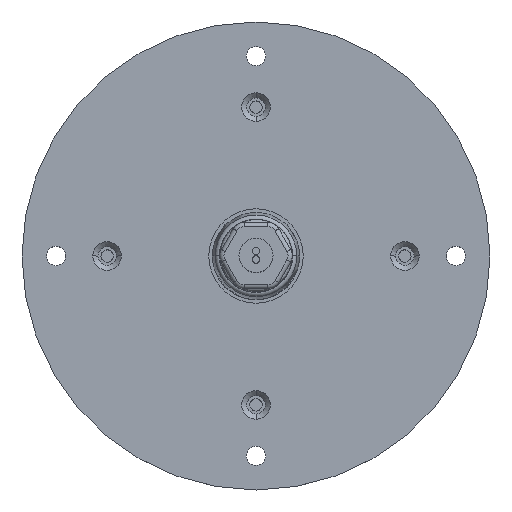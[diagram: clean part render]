
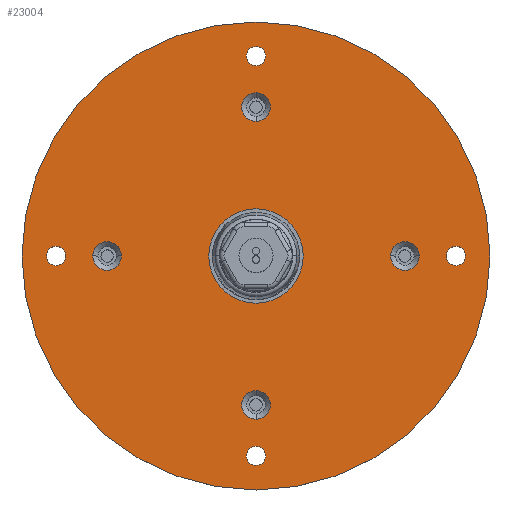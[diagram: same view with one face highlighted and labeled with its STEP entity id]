
A CAD part, top view. The second image highlights one B-rep face of the part: STEP entity #23004.
In plain terms, the highlighted planar face has unit normal (0, 0, 1).
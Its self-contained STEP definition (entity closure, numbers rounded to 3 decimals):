
#22507=CARTESIAN_POINT('',(0.,0.,1.5));
#22508=DIRECTION('',(0.,0.,1.));
#22509=DIRECTION('',(-1.,0.,0.));
#22510=AXIS2_PLACEMENT_3D('',#22507,#22508,#22509);
#22512=CARTESIAN_POINT('',(0.,0.,1.5));
#22513=DIRECTION('',(0.,0.,1.));
#22514=DIRECTION('',(1.,0.,0.));
#22515=AXIS2_PLACEMENT_3D('',#22512,#22513,#22514);
#22517=CARTESIAN_POINT('',(0.,0.,1.5));
#22518=DIRECTION('',(0.,0.,-1.));
#22519=DIRECTION('',(1.,0.,0.));
#22520=AXIS2_PLACEMENT_3D('',#22517,#22518,#22519);
#22522=CARTESIAN_POINT('',(0.,0.,1.5));
#22523=DIRECTION('',(0.,0.,-1.));
#22524=DIRECTION('',(-1.,0.,0.));
#22525=AXIS2_PLACEMENT_3D('',#22522,#22523,#22524);
#22527=CARTESIAN_POINT('',(35.,0.,1.5));
#22528=DIRECTION('',(0.,0.,-1.));
#22529=DIRECTION('',(1.,0.,0.));
#22530=AXIS2_PLACEMENT_3D('',#22527,#22528,#22529);
#22532=CARTESIAN_POINT('',(35.,0.,1.5));
#22533=DIRECTION('',(0.,0.,-1.));
#22534=DIRECTION('',(-1.,0.,0.));
#22535=AXIS2_PLACEMENT_3D('',#22532,#22533,#22534);
#22537=CARTESIAN_POINT('',(0.,35.,1.5));
#22538=DIRECTION('',(0.,0.,-1.));
#22539=DIRECTION('',(0.,1.,0.));
#22540=AXIS2_PLACEMENT_3D('',#22537,#22538,#22539);
#22542=CARTESIAN_POINT('',(0.,35.,1.5));
#22543=DIRECTION('',(0.,0.,-1.));
#22544=DIRECTION('',(0.,-1.,0.));
#22545=AXIS2_PLACEMENT_3D('',#22542,#22543,#22544);
#22547=CARTESIAN_POINT('',(-35.,0.,1.5));
#22548=DIRECTION('',(0.,0.,-1.));
#22549=DIRECTION('',(1.,0.,0.));
#22550=AXIS2_PLACEMENT_3D('',#22547,#22548,#22549);
#22552=CARTESIAN_POINT('',(-35.,0.,1.5));
#22553=DIRECTION('',(0.,0.,-1.));
#22554=DIRECTION('',(-1.,0.,0.));
#22555=AXIS2_PLACEMENT_3D('',#22552,#22553,#22554);
#22557=CARTESIAN_POINT('',(0.,-35.,1.5));
#22558=DIRECTION('',(0.,0.,-1.));
#22559=DIRECTION('',(0.,-1.,0.));
#22560=AXIS2_PLACEMENT_3D('',#22557,#22558,#22559);
#22562=CARTESIAN_POINT('',(0.,-35.,1.5));
#22563=DIRECTION('',(0.,0.,-1.));
#22564=DIRECTION('',(0.,1.,0.));
#22565=AXIS2_PLACEMENT_3D('',#22562,#22563,#22564);
#22567=CARTESIAN_POINT('',(0.,47.,1.5));
#22568=DIRECTION('',(0.,0.,1.));
#22569=DIRECTION('',(1.,0.,0.));
#22570=AXIS2_PLACEMENT_3D('',#22567,#22568,#22569);
#22572=CARTESIAN_POINT('',(0.,47.,1.5));
#22573=DIRECTION('',(0.,0.,1.));
#22574=DIRECTION('',(-1.,0.,0.));
#22575=AXIS2_PLACEMENT_3D('',#22572,#22573,#22574);
#22577=CARTESIAN_POINT('',(-47.,0.,1.5));
#22578=DIRECTION('',(0.,0.,1.));
#22579=DIRECTION('',(0.,1.,0.));
#22580=AXIS2_PLACEMENT_3D('',#22577,#22578,#22579);
#22582=CARTESIAN_POINT('',(-47.,0.,1.5));
#22583=DIRECTION('',(0.,0.,1.));
#22584=DIRECTION('',(0.,-1.,0.));
#22585=AXIS2_PLACEMENT_3D('',#22582,#22583,#22584);
#22587=CARTESIAN_POINT('',(0.,-47.,1.5));
#22588=DIRECTION('',(0.,0.,1.));
#22589=DIRECTION('',(-1.,0.,0.));
#22590=AXIS2_PLACEMENT_3D('',#22587,#22588,#22589);
#22592=CARTESIAN_POINT('',(0.,-47.,1.5));
#22593=DIRECTION('',(0.,0.,1.));
#22594=DIRECTION('',(1.,0.,0.));
#22595=AXIS2_PLACEMENT_3D('',#22592,#22593,#22594);
#22597=CARTESIAN_POINT('',(47.,0.,1.5));
#22598=DIRECTION('',(0.,0.,1.));
#22599=DIRECTION('',(0.,-1.,0.));
#22600=AXIS2_PLACEMENT_3D('',#22597,#22598,#22599);
#22602=CARTESIAN_POINT('',(47.,0.,1.5));
#22603=DIRECTION('',(0.,0.,1.));
#22604=DIRECTION('',(0.,1.,0.));
#22605=AXIS2_PLACEMENT_3D('',#22602,#22603,#22604);
#22755=CARTESIAN_POINT('',(-11.1,0.,1.5));
#22756=CARTESIAN_POINT('',(11.1,0.,1.5));
#22757=VERTEX_POINT('',#22755);
#22758=VERTEX_POINT('',#22756);
#22775=CARTESIAN_POINT('',(38.35,0.,1.5));
#22776=CARTESIAN_POINT('',(31.65,0.,1.5));
#22777=VERTEX_POINT('',#22775);
#22778=VERTEX_POINT('',#22776);
#22783=CARTESIAN_POINT('',(0.,38.35,1.5));
#22784=CARTESIAN_POINT('',(0.,31.65,1.5));
#22785=VERTEX_POINT('',#22783);
#22786=VERTEX_POINT('',#22784);
#22791=CARTESIAN_POINT('',(-31.65,0.,1.5));
#22792=CARTESIAN_POINT('',(-38.35,0.,1.5));
#22793=VERTEX_POINT('',#22791);
#22794=VERTEX_POINT('',#22792);
#22799=CARTESIAN_POINT('',(0.,-38.35,1.5));
#22800=CARTESIAN_POINT('',(0.,-31.65,1.5));
#22801=VERTEX_POINT('',#22799);
#22802=VERTEX_POINT('',#22800);
#22807=CARTESIAN_POINT('',(2.25,47.,1.5));
#22808=CARTESIAN_POINT('',(-2.25,47.,1.5));
#22809=VERTEX_POINT('',#22807);
#22810=VERTEX_POINT('',#22808);
#22815=CARTESIAN_POINT('',(-47.,2.25,1.5));
#22816=CARTESIAN_POINT('',(-47.,-2.25,1.5));
#22817=VERTEX_POINT('',#22815);
#22818=VERTEX_POINT('',#22816);
#22823=CARTESIAN_POINT('',(-2.25,-47.,1.5));
#22824=CARTESIAN_POINT('',(2.25,-47.,1.5));
#22825=VERTEX_POINT('',#22823);
#22826=VERTEX_POINT('',#22824);
#22831=CARTESIAN_POINT('',(47.,-2.25,1.5));
#22832=CARTESIAN_POINT('',(47.,2.25,1.5));
#22833=VERTEX_POINT('',#22831);
#22834=VERTEX_POINT('',#22832);
#22843=CARTESIAN_POINT('',(55.,0.,1.5));
#22844=VERTEX_POINT('',#22843);
#22845=CARTESIAN_POINT('',(-55.,0.,1.5));
#22846=VERTEX_POINT('',#22845);
#22941=CARTESIAN_POINT('',(0.,0.,1.5));
#22942=DIRECTION('',(0.,0.,1.));
#22943=DIRECTION('',(1.,0.,0.));
#22944=AXIS2_PLACEMENT_3D('',#22941,#22942,#22943);
#22945=PLANE('',#22944);
#22946=ORIENTED_EDGE('',*,*,#22923,.F.);
#22947=ORIENTED_EDGE('',*,*,#22933,.F.);
#22948=EDGE_LOOP('',(#22946,#22947));
#22949=FACE_OUTER_BOUND('',#22948,.F.);
#22951=ORIENTED_EDGE('',*,*,#22950,.F.);
#22953=ORIENTED_EDGE('',*,*,#22952,.F.);
#22954=EDGE_LOOP('',(#22951,#22953));
#22955=FACE_BOUND('',#22954,.F.);
#22957=ORIENTED_EDGE('',*,*,#22956,.F.);
#22959=ORIENTED_EDGE('',*,*,#22958,.F.);
#22960=EDGE_LOOP('',(#22957,#22959));
#22961=FACE_BOUND('',#22960,.F.);
#22963=ORIENTED_EDGE('',*,*,#22962,.F.);
#22965=ORIENTED_EDGE('',*,*,#22964,.F.);
#22966=EDGE_LOOP('',(#22963,#22965));
#22967=FACE_BOUND('',#22966,.F.);
#22969=ORIENTED_EDGE('',*,*,#22968,.F.);
#22971=ORIENTED_EDGE('',*,*,#22970,.F.);
#22972=EDGE_LOOP('',(#22969,#22971));
#22973=FACE_BOUND('',#22972,.F.);
#22975=ORIENTED_EDGE('',*,*,#22974,.F.);
#22977=ORIENTED_EDGE('',*,*,#22976,.F.);
#22978=EDGE_LOOP('',(#22975,#22977));
#22979=FACE_BOUND('',#22978,.F.);
#22981=ORIENTED_EDGE('',*,*,#22980,.T.);
#22983=ORIENTED_EDGE('',*,*,#22982,.T.);
#22984=EDGE_LOOP('',(#22981,#22983));
#22985=FACE_BOUND('',#22984,.F.);
#22987=ORIENTED_EDGE('',*,*,#22986,.T.);
#22989=ORIENTED_EDGE('',*,*,#22988,.T.);
#22990=EDGE_LOOP('',(#22987,#22989));
#22991=FACE_BOUND('',#22990,.F.);
#22993=ORIENTED_EDGE('',*,*,#22992,.T.);
#22995=ORIENTED_EDGE('',*,*,#22994,.T.);
#22996=EDGE_LOOP('',(#22993,#22995));
#22997=FACE_BOUND('',#22996,.F.);
#22999=ORIENTED_EDGE('',*,*,#22998,.T.);
#23001=ORIENTED_EDGE('',*,*,#23000,.T.);
#23002=EDGE_LOOP('',(#22999,#23001));
#23003=FACE_BOUND('',#23002,.F.);
#23004=ADVANCED_FACE('',(#22949,#22955,#22961,#22967,#22973,#22979,#22985,
#22991,#22997,#23003),#22945,.T.);
#22511=CIRCLE('',#22510,55.);
#22516=CIRCLE('',#22515,55.);
#22521=CIRCLE('',#22520,11.1);
#22526=CIRCLE('',#22525,11.1);
#22531=CIRCLE('',#22530,3.35);
#22536=CIRCLE('',#22535,3.35);
#22541=CIRCLE('',#22540,3.35);
#22546=CIRCLE('',#22545,3.35);
#22551=CIRCLE('',#22550,3.35);
#22556=CIRCLE('',#22555,3.35);
#22561=CIRCLE('',#22560,3.35);
#22566=CIRCLE('',#22565,3.35);
#22571=CIRCLE('',#22570,2.25);
#22576=CIRCLE('',#22575,2.25);
#22581=CIRCLE('',#22580,2.25);
#22586=CIRCLE('',#22585,2.25);
#22591=CIRCLE('',#22590,2.25);
#22596=CIRCLE('',#22595,2.25);
#22601=CIRCLE('',#22600,2.25);
#22606=CIRCLE('',#22605,2.25);
#22923=EDGE_CURVE('',#22846,#22844,#22511,.T.);
#22933=EDGE_CURVE('',#22844,#22846,#22516,.T.);
#22950=EDGE_CURVE('',#22758,#22757,#22521,.T.);
#22952=EDGE_CURVE('',#22757,#22758,#22526,.T.);
#22956=EDGE_CURVE('',#22777,#22778,#22531,.T.);
#22958=EDGE_CURVE('',#22778,#22777,#22536,.T.);
#22962=EDGE_CURVE('',#22785,#22786,#22541,.T.);
#22964=EDGE_CURVE('',#22786,#22785,#22546,.T.);
#22968=EDGE_CURVE('',#22793,#22794,#22551,.T.);
#22970=EDGE_CURVE('',#22794,#22793,#22556,.T.);
#22974=EDGE_CURVE('',#22801,#22802,#22561,.T.);
#22976=EDGE_CURVE('',#22802,#22801,#22566,.T.);
#22980=EDGE_CURVE('',#22809,#22810,#22571,.T.);
#22982=EDGE_CURVE('',#22810,#22809,#22576,.T.);
#22986=EDGE_CURVE('',#22817,#22818,#22581,.T.);
#22988=EDGE_CURVE('',#22818,#22817,#22586,.T.);
#22992=EDGE_CURVE('',#22825,#22826,#22591,.T.);
#22994=EDGE_CURVE('',#22826,#22825,#22596,.T.);
#22998=EDGE_CURVE('',#22833,#22834,#22601,.T.);
#23000=EDGE_CURVE('',#22834,#22833,#22606,.T.);
